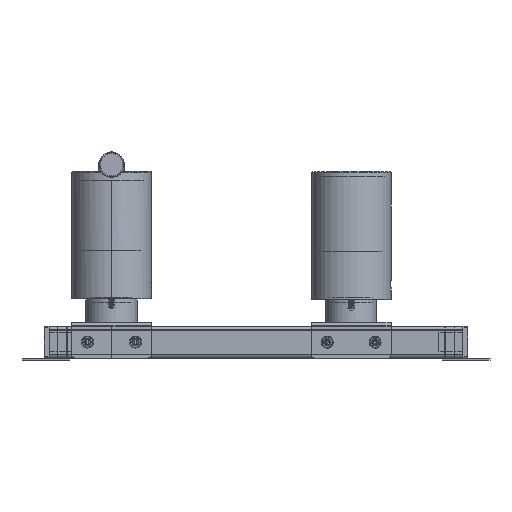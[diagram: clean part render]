
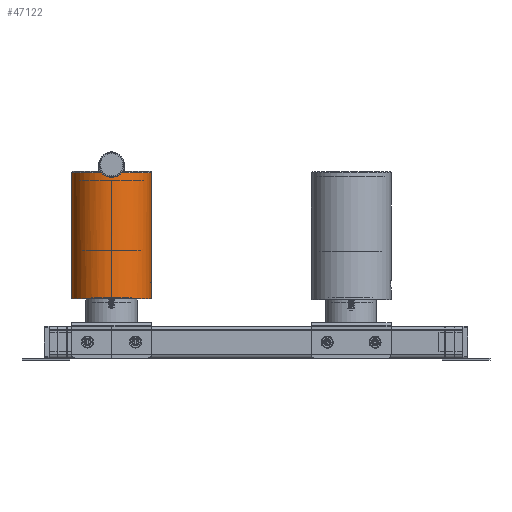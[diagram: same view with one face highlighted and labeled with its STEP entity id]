
A CAD part, top view. The second image highlights one B-rep face of the part: STEP entity #47122.
In plain terms, the highlighted cylindrical face has radius 25 mm (diameter 50 mm), a partial arc.
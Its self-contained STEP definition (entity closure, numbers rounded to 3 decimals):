
#46146=CARTESIAN_POINT('',(0.,0.,0.));
#46147=DIRECTION('',(0.,1.,0.));
#46148=DIRECTION('',(-1.,0.,0.));
#46149=AXIS2_PLACEMENT_3D('',#46146,#46147,#46148);
#46180=DIRECTION('',(0.,1.,0.));
#46181=VECTOR('',#46180,7.4);
#46182=CARTESIAN_POINT('',(25.,0.,0.));
#46183=LINE('',#46182,#46181);
#46193=CARTESIAN_POINT('',(25.,7.4,0.));
#46195=CARTESIAN_POINT('',(25.,12.6,0.));
#46206=DIRECTION('',(0.,1.,0.));
#46207=VECTOR('',#46206,66.4);
#46208=CARTESIAN_POINT('',(25.,12.6,0.));
#46209=LINE('',#46208,#46207);
#46293=CARTESIAN_POINT('',(0.,76.,25.));
#46294=CARTESIAN_POINT('',(0.788,76.,25.));
#46295=CARTESIAN_POINT('',(2.308,76.214,24.93));
#46296=CARTESIAN_POINT('',(4.576,77.288,24.607));
#46297=CARTESIAN_POINT('',(5.732,78.359,24.34));
#46298=CARTESIAN_POINT('',(6.245,79.,24.207));
#46300=CARTESIAN_POINT('',(0.,79.,0.));
#46301=DIRECTION('',(0.,1.,0.));
#46302=DIRECTION('',(0.25,0.,0.968));
#46303=AXIS2_PLACEMENT_3D('',#46300,#46301,#46302);
#46305=CARTESIAN_POINT('',(24.864,10.,2.6));
#46306=CARTESIAN_POINT('',(24.864,10.192,2.6));
#46307=CARTESIAN_POINT('',(24.869,10.569,2.559));
#46308=CARTESIAN_POINT('',(24.888,11.137,2.363));
#46309=CARTESIAN_POINT('',(24.917,11.633,2.051));
#46310=CARTESIAN_POINT('',(24.948,12.054,1.629));
#46311=CARTESIAN_POINT('',(24.976,12.357,1.146));
#46312=CARTESIAN_POINT('',(24.995,12.554,
0.594));
#46313=CARTESIAN_POINT('',(25.,12.6,0.203));
#46314=CARTESIAN_POINT('',(25.,12.6,0.));
#46316=CARTESIAN_POINT('',(25.,7.4,0.));
#46317=CARTESIAN_POINT('',(25.,7.4,0.201));
#46318=CARTESIAN_POINT('',(24.995,7.445,
0.589));
#46319=CARTESIAN_POINT('',(24.976,7.641,1.142));
#46320=CARTESIAN_POINT('',(24.948,7.945,1.628));
#46321=CARTESIAN_POINT('',(24.917,8.366,2.051));
#46322=CARTESIAN_POINT('',(24.889,8.861,2.362));
#46323=CARTESIAN_POINT('',(24.869,9.43,2.559));
#46324=CARTESIAN_POINT('',(24.864,9.808,2.6));
#46325=CARTESIAN_POINT('',(24.864,10.,2.6));
#46327=DIRECTION('',(0.,1.,0.));
#46328=VECTOR('',#46327,79.);
#46329=CARTESIAN_POINT('',(-25.,0.,0.));
#46330=LINE('',#46329,#46328);
#46331=CARTESIAN_POINT('',(0.,79.,0.));
#46332=DIRECTION('',(0.,1.,0.));
#46333=DIRECTION('',(-1.,0.,0.));
#46334=AXIS2_PLACEMENT_3D('',#46331,#46332,#46333);
#46336=CARTESIAN_POINT('',(-6.245,79.,
24.207));
#46337=CARTESIAN_POINT('',(-5.737,78.366,
24.338));
#46338=CARTESIAN_POINT('',(-4.592,77.301,
24.603));
#46339=CARTESIAN_POINT('',(-2.343,76.224,
24.926));
#46340=CARTESIAN_POINT('',(-0.803,76.,25.));
#46341=CARTESIAN_POINT('',(0.,76.,25.));
#46848=CARTESIAN_POINT('',(25.,0.,0.));
#46849=CARTESIAN_POINT('',(-25.,0.,0.));
#46850=VERTEX_POINT('',#46848);
#46851=VERTEX_POINT('',#46849);
#46872=CARTESIAN_POINT('',(-25.,79.,0.));
#46873=VERTEX_POINT('',#46872);
#46874=VERTEX_POINT('',#46195);
#46876=VERTEX_POINT('',#46193);
#46877=VERTEX_POINT('',#46305);
#46880=CARTESIAN_POINT('',(25.,79.,0.));
#46881=VERTEX_POINT('',#46880);
#46913=VERTEX_POINT('',#46293);
#46914=VERTEX_POINT('',#46298);
#46915=VERTEX_POINT('',#46336);
#47101=CARTESIAN_POINT('',(0.,0.,0.));
#47102=DIRECTION('',(0.,1.,0.));
#47103=DIRECTION('',(1.,0.,0.));
#47104=AXIS2_PLACEMENT_3D('',#47101,#47102,#47103);
#47105=CYLINDRICAL_SURFACE('',#47104,25.);
#47106=ORIENTED_EDGE('',*,*,#47030,.T.);
#47108=ORIENTED_EDGE('',*,*,#47107,.T.);
#47109=ORIENTED_EDGE('',*,*,#47001,.F.);
#47111=ORIENTED_EDGE('',*,*,#47110,.F.);
#47113=ORIENTED_EDGE('',*,*,#47112,.F.);
#47114=ORIENTED_EDGE('',*,*,#46995,.F.);
#47115=ORIENTED_EDGE('',*,*,#46970,.F.);
#47116=ORIENTED_EDGE('',*,*,#46992,.T.);
#47118=ORIENTED_EDGE('',*,*,#47117,.T.);
#47119=ORIENTED_EDGE('',*,*,#47083,.T.);
#47120=EDGE_LOOP('',(#47106,#47108,#47109,#47111,#47113,#47114,#47115,#47116,
#47118,#47119));
#47121=FACE_OUTER_BOUND('',#47120,.F.);
#47122=ADVANCED_FACE('',(#47121),#47105,.T.);
#46150=CIRCLE('',#46149,25.);
#46299=B_SPLINE_CURVE_WITH_KNOTS('',3,(#46293,#46294,#46295,#46296,#46297,
#46298),.UNSPECIFIED.,.F.,.F.,(4,1,1,4),(0.,0.333,
0.667,1.),.UNSPECIFIED.);
#46304=CIRCLE('',#46303,25.);
#46315=B_SPLINE_CURVE_WITH_KNOTS('',3,(#46305,#46306,#46307,#46308,#46309,
#46310,#46311,#46312,#46313,#46314),.UNSPECIFIED.,.F.,.F.,(4,1,1,1,1,1,1,4),(
0.,0.143,0.286,0.429,0.571,
0.714,0.857,1.),.UNSPECIFIED.);
#46326=B_SPLINE_CURVE_WITH_KNOTS('',3,(#46316,#46317,#46318,#46319,#46320,
#46321,#46322,#46323,#46324,#46325),.UNSPECIFIED.,.F.,.F.,(4,1,1,1,1,1,1,4),(
0.,0.143,0.286,0.429,0.571,
0.714,0.857,1.),.UNSPECIFIED.);
#46335=CIRCLE('',#46334,25.);
#46342=B_SPLINE_CURVE_WITH_KNOTS('',3,(#46336,#46337,#46338,#46339,#46340,
#46341),.UNSPECIFIED.,.F.,.F.,(4,1,1,4),(0.,0.333,
0.667,1.),.UNSPECIFIED.);
#46970=EDGE_CURVE('',#46851,#46850,#46150,.T.);
#46992=EDGE_CURVE('',#46851,#46873,#46330,.T.);
#46995=EDGE_CURVE('',#46850,#46876,#46183,.T.);
#47001=EDGE_CURVE('',#46874,#46881,#46209,.T.);
#47030=EDGE_CURVE('',#46913,#46914,#46299,.T.);
#47083=EDGE_CURVE('',#46915,#46913,#46342,.T.);
#47107=EDGE_CURVE('',#46914,#46881,#46304,.T.);
#47110=EDGE_CURVE('',#46877,#46874,#46315,.T.);
#47112=EDGE_CURVE('',#46876,#46877,#46326,.T.);
#47117=EDGE_CURVE('',#46873,#46915,#46335,.T.);
